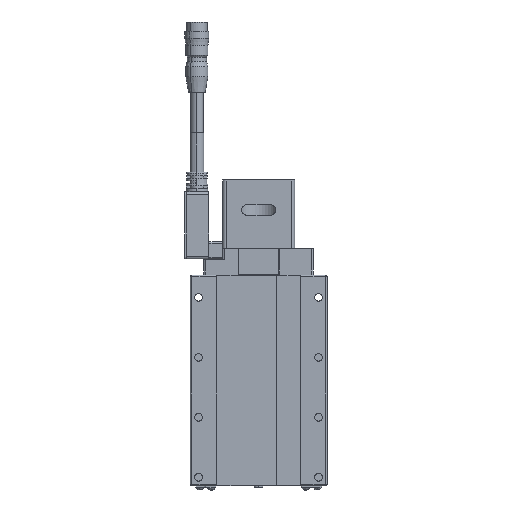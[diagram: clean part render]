
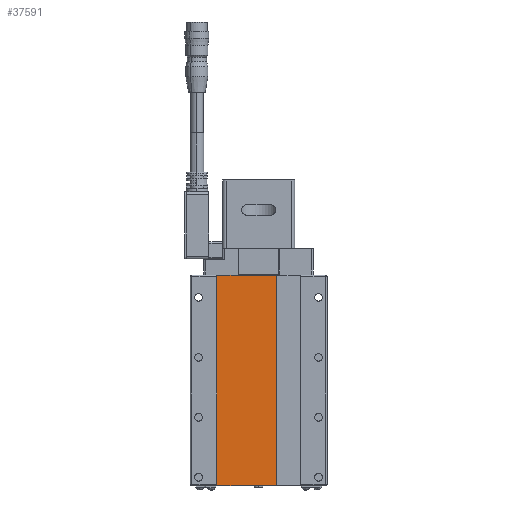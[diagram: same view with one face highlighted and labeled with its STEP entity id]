
A CAD part, front view. The second image highlights one B-rep face of the part: STEP entity #37591.
In plain terms, the highlighted planar face has unit normal (0, -1, 0).
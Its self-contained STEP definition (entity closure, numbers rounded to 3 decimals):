
#782 = ORIENTED_EDGE ( 'NONE', *, *, #27017, .T. ) ;
#1310 = PLANE ( 'NONE',  #51784 ) ;
#1951 = DIRECTION ( 'NONE',  ( 0., 1., 0. ) ) ;
#4308 = CARTESIAN_POINT ( 'NONE',  ( -24.3, 0.3, 0.2 ) ) ;
#5743 = EDGE_CURVE ( 'NONE', #14052, #8904, #10984, .T. ) ;
#6045 = CARTESIAN_POINT ( 'NONE',  ( -24.3, 0.3, 122.8 ) ) ;
#8904 = VERTEX_POINT ( 'NONE', #28444 ) ;
#10984 = LINE ( 'NONE', #58507, #59559 ) ;
#12244 = VECTOR ( 'NONE', #53879, 1000. ) ;
#14052 = VERTEX_POINT ( 'NONE', #57757 ) ;
#14624 = CARTESIAN_POINT ( 'NONE',  ( 10.3, 0.3, 0.2 ) ) ;
#15912 = FACE_OUTER_BOUND ( 'NONE', #45357, .T. ) ;
#19257 = LINE ( 'NONE', #58777, #47912 ) ;
#20520 = DIRECTION ( 'NONE',  ( 0., 0., -1. ) ) ;
#23100 = EDGE_CURVE ( 'NONE', #48930, #14052, #25359, .T. ) ;
#24908 = DIRECTION ( 'NONE',  ( 0., 0., 1. ) ) ;
#25359 = LINE ( 'NONE', #6045, #12244 ) ;
#26027 = CARTESIAN_POINT ( 'NONE',  ( -24.3, 0.3, 122.8 ) ) ;
#27017 = EDGE_CURVE ( 'NONE', #60425, #48930, #19257, .T. ) ;
#28444 = CARTESIAN_POINT ( 'NONE',  ( -24.3, 0.3, 0.2 ) ) ;
#30503 = CARTESIAN_POINT ( 'NONE',  ( 10.3, 0.3, 122.8 ) ) ;
#35227 = DIRECTION ( 'NONE',  ( -1., 0., 0. ) ) ;
#37591 = ADVANCED_FACE ( 'NONE', ( #15912 ), #1310, .F. ) ;
#37918 = VECTOR ( 'NONE', #48957, 1000. ) ;
#40078 = EDGE_CURVE ( 'NONE', #8904, #60425, #48025, .T. ) ;
#40992 = ORIENTED_EDGE ( 'NONE', *, *, #5743, .T. ) ;
#45357 = EDGE_LOOP ( 'NONE', ( #40992, #51267, #782, #52661 ) ) ;
#47912 = VECTOR ( 'NONE', #24908, 1000. ) ;
#48025 = LINE ( 'NONE', #4308, #37918 ) ;
#48930 = VERTEX_POINT ( 'NONE', #30503 ) ;
#48957 = DIRECTION ( 'NONE',  ( 1., 0., 0. ) ) ;
#51267 = ORIENTED_EDGE ( 'NONE', *, *, #40078, .T. ) ;
#51784 = AXIS2_PLACEMENT_3D ( 'NONE', #26027, #1951, #35227 ) ;
#52661 = ORIENTED_EDGE ( 'NONE', *, *, #23100, .T. ) ;
#53879 = DIRECTION ( 'NONE',  ( -1., 0., 0. ) ) ;
#57757 = CARTESIAN_POINT ( 'NONE',  ( -24.3, 0.3, 122.8 ) ) ;
#58507 = CARTESIAN_POINT ( 'NONE',  ( -24.3, 0.3, 0.2 ) ) ;
#58777 = CARTESIAN_POINT ( 'NONE',  ( 10.3, 0.3, 0.2 ) ) ;
#59559 = VECTOR ( 'NONE', #20520, 1000. ) ;
#60425 = VERTEX_POINT ( 'NONE', #14624 ) ;
